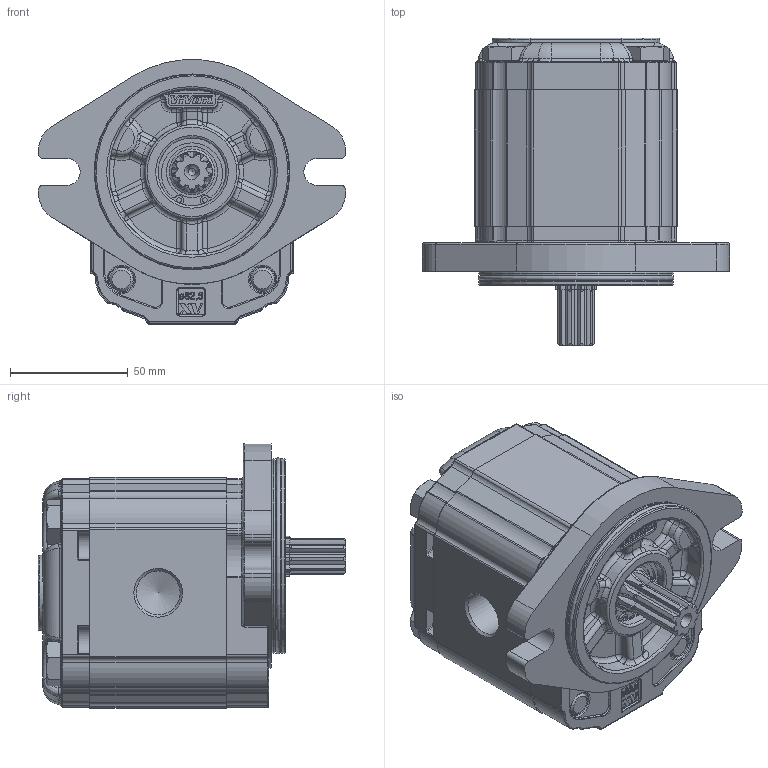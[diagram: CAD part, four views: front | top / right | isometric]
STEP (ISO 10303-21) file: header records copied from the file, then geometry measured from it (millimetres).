
FILE_DESCRIPTION(/* description */ ('Unknown'),/* implementation_level */ '2;1');
FILE_NAME(/* name */ 'X2R4731IBBE',/* time_stamp */ '2021-04-26T17:02:41+02:00',/* author */ ('Unknown'),/* organization */ ('Unknown'),/* preprocessor_version */ 'ST-DEVELOPER v16.7',/* originating_system */ 'Solid Edge',/* authorisation */ 'Unknown');
FILE_SCHEMA (('AUTOMOTIVE_DESIGN {1 0 10303 214 3 1 1}'));
Products named in the file (5): X2R4731IBBE; X2R31; 2I; X2BBH58; XR219-E
Assembly tree (4 placements, depth 2):
  X2R4731IBBE
    X2R31
    2I
    X2BBH58
    XR219-E
Bounding box: 130.38 x 130.7 x 112.3 mm (x, y, z)
Volume: 752687.6 mm3; surface area: 102879.4 mm2
Topology: 4 solids, 5 shells, 1541 faces, 3896 edges, 2430 vertices
Faces by surface type: plane 598, cylinder 431, bspline 210, torus 200, cone 76, sphere 26
Full cylindrical faces by diameter (mm): 2 x2, 11 x2, 11.445 x1, 16 x4, 17.42 x1, 17.48 x2, 18.631 x1, 18.724 x1, 19 x1, 20.595 x1, 21.741 x1, 25.834 x1, 28.56 x1, 28.57 x1, 28.8 x1, 30.4 x1, 79.6 x2, 82.5 x2
Entity records: 58553 total; most frequent: CARTESIAN_POINT 12877, ORIENTED_EDGE 7592, DIRECTION 7246, EDGE_CURVE 3796, AXIS2_PLACEMENT_3D 2667, VERTEX_POINT 2398, LINE 1912, VECTOR 1912
